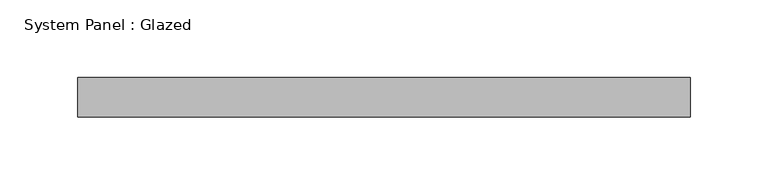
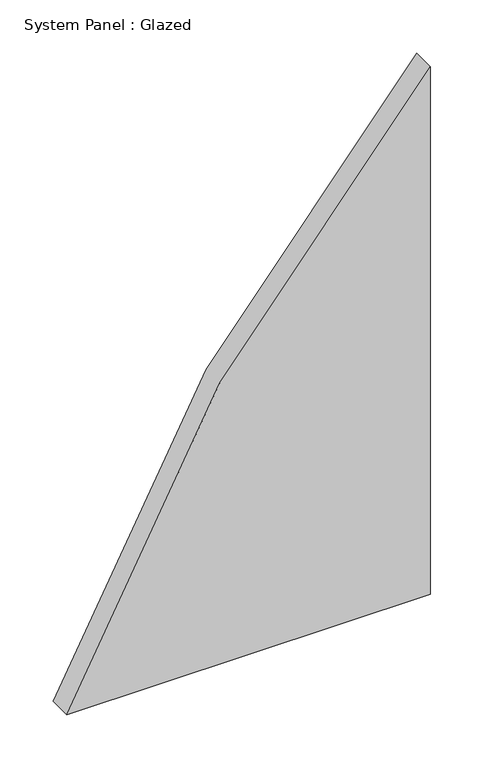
"""IFC4 building model written with IfcOpenShell, lengths in millimetres: plate geometry, System Panel : Glazed."""

from ifc_helpers import new_model, si_unit, point, frame, frame_2d, origin, place, context, project, spatial, polyline, circle_curve, trimmed, segment, composite_curve, outline, extrude, source, transform, mapped, element, save


def system_panel_glazed_4c725cf6(model_context):
    return source(origin(), model_context, "Body", "SweptSolid", [
        extrude(outline(composite_curve([segment(polyline([(0.0, -196.8622586), (0.0, 196.8622586), (604.2053731, 196.8622586)]), True, "CONTINUOUS"), segment(trimmed(circle_curve(frame_2d((-641.35, 1447.8122586)), 1765.3), [point((604.2053731, 196.8622586))], [point((0.0, -196.8622586))], False, "CARTESIAN"), True, "CONTINUOUS")], self_intersect=False)), frame((0.0, 19.05, 0.0), z_axis=(0.0, 1.0, 0.0), x_axis=(0.0, 0.0, 1.0)), (0.0, 0.0, 1.0), 25.4),
    ])


if __name__ == "__main__":
    model = new_model("IFC4")
    model_context = context("Model", 3, world=origin())
    ifc_project = project(units=[si_unit("LENGTHUNIT", "METRE", prefix="MILLI")], contexts=[model_context])
    site = spatial("IfcSite", under=ifc_project)
    building = spatial("IfcBuilding", under=site)
    placement = place(None, origin())
    system_panel_glazed_shape = system_panel_glazed_4c725cf6(model_context)
    element("IfcPlate", 1, ObjectType="System Panel : Glazed", at=placement, inside=building, context=model_context, shape_type="MappedRepresentation", body=[
        mapped(system_panel_glazed_shape, transform((0.0, 0.0, 0.0), x_axis=(1.0, 0.0, 0.0), y_axis=(0.0, 1.0, 0.0), z_axis=(0.0, 0.0, 1.0))),
    ])
    save(model, "model.ifc")
